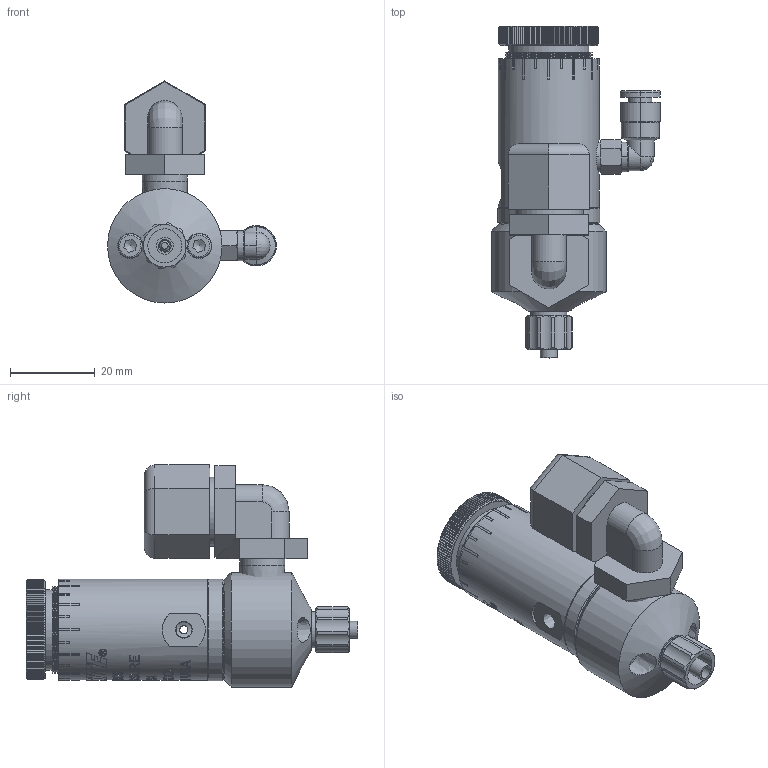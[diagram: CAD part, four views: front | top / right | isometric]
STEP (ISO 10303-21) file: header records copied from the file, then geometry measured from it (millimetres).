
FILE_DESCRIPTION((''),'2;1');
FILE_NAME('C:\3D Projects\3D Standard Parts\98009 Rev F Light Cure Dispense Valve 3D.stp','2007-10-31T13:12:24',('patch'),(''),'Autodesk Inventor 2008','Autodesk Inventor 2008','');
FILE_SCHEMA(('AUTOMOTIVE_DESIGN { 1 0 10303 214 1 1 1 1 }'));
Length unit declared in the file: inch
Products named in the file (9): 98009 Rev F Light Cure Dispense Valve 3D; 984098 Stroke Knob; 984124 Valve Body; 984117 Diaphragm; 984118 Valve Head; 8900002 Luer Lock Fitting; 984110 Male Elbow 10-32 x 0.156 Tube; 984122 Parker Elbow P4ME2 0.125 NPT x 0.25 Tube; 8
Assembly tree (9 placements, depth 2):
  98009 Rev F Light Cure Dispense Valve 3D
    984098 Stroke Knob
    984124 Valve Body
    984117 Diaphragm
    984118 Valve Head
    8900002 Luer Lock Fitting
    984110 Male Elbow 10-32 x 0.156 Tube
    984122 Parker Elbow P4ME2 0.125 NPT x 0.25 Tube
    8  x2
Bounding box: 39.81 x 78.23 x 52.35 mm (x, y, z)
Volume: 35472.1 mm3; surface area: 20565.6 mm2
Topology: 9 solids, 9 shells, 1537 faces, 4019 edges, 2604 vertices
Faces by surface type: plane 650, bspline 374, cylinder 360, cone 141, torus 10, sphere 2
Full cylindrical faces by diameter (mm): 1.93 x2, 2.261 x10, 2.489 x2, 2.845 x10, 3 x1, 3.505 x2, 3.734 x4, 3.969 x1, 4 x1, 4.064 x3, 4.763 x1, 5.172 x7, 5.74 x2, 6 x1, 6.35 x10, 7.247 x1, 7.468 x1, 8 x1, 8.28 x1, 8.5 x1, 8.565 x1, 9.525 x1, 9.652 x1, 10.668 x1, 11.113 x1, 11.125 x1, 12.192 x1, 12.294 x1, 12.649 x1, 14.732 x1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
Entity records: 116927 total; most frequent: CARTESIAN_POINT 83241, ORIENTED_EDGE 7446, DIRECTION 5434, EDGE_CURVE 3723, VERTEX_POINT 2553, AXIS2_PLACEMENT_3D 2014, EDGE_LOOP 1890, FACE_OUTER_BOUND 1523
